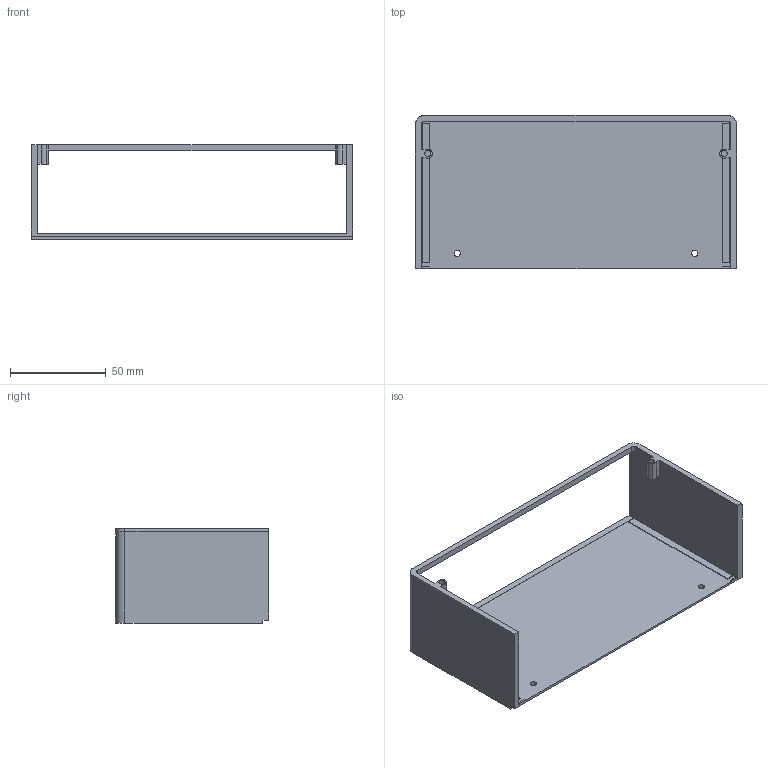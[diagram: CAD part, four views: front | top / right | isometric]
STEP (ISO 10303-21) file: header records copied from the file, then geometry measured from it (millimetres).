
FILE_DESCRIPTION(('Open CASCADE Model'),'2;1');
FILE_NAME('Open CASCADE Shape Model','2026-11-07T16:30:39',('Author'),( 'Open CASCADE'),'Open CASCADE STEP processor 7.9','Open CASCADE 7.9' ,'Unknown');
FILE_SCHEMA(('AUTOMOTIVE_DESIGN { 1 0 10303 214 1 1 1 1 }'));
Length unit declared in the file: millimetre
Products named in the file (1): Open CASCADE STEP translator 7.9 2
Bounding box: 168 x 80 x 49.2 mm (x, y, z)
Volume: 62466.2 mm3; surface area: 46046.5 mm2
Topology: 1 solids, 1 shells, 73 faces, 203 edges, 134 vertices
Faces by surface type: plane 52, cylinder 19, revolution 2
Full cylindrical faces by diameter (mm): 3.2 x2, 3.3 x2
Entity records: 5632 total; most frequent: CARTESIAN_POINT 1733, DIRECTION 669, ORIENTED_EDGE 406, PCURVE 406, DEFINITIONAL_REPRESENTATION 406, LINE 403, VECTOR 403, EDGE_CURVE 203
